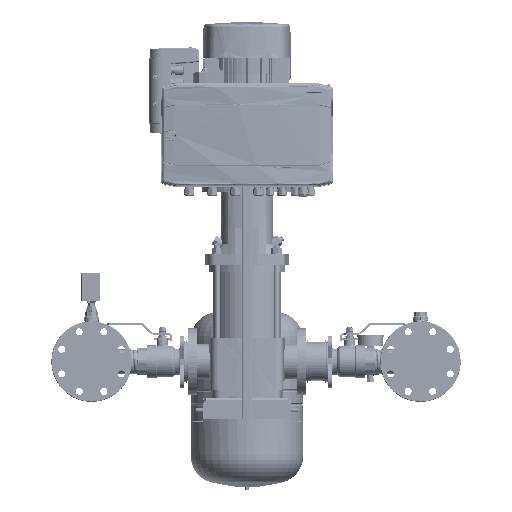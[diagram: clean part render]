
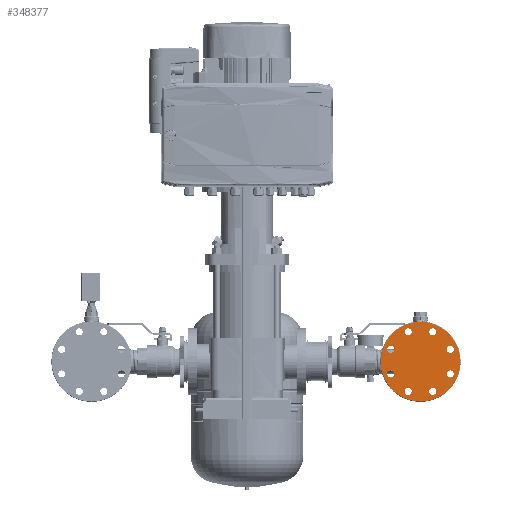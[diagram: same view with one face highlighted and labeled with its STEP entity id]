
A CAD part, left-side view. The second image highlights one B-rep face of the part: STEP entity #348377.
In plain terms, the highlighted planar face has unit normal (-1, 0, 0) as drawn and (1, 0, 0) by its records, which use the part's own axes.
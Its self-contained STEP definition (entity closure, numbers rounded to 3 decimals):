
#347771=CARTESIAN_POINT('Vertex',(20.,-38.513,69.596)) ;
#347776=CARTESIAN_POINT('Axis2P3D Location',(20.,-30.615,73.91)) ;
#347780=CARTESIAN_POINT('Vertex',(20.,-22.716,78.225)) ;
#347802=CARTESIAN_POINT('Axis2P3D Location',(20.,-30.615,73.91)) ;
#347828=CARTESIAN_POINT('Vertex',(20.,21.979,76.444)) ;
#347833=CARTESIAN_POINT('Axis2P3D Location',(20.,30.615,73.91)) ;
#347837=CARTESIAN_POINT('Vertex',(20.,39.251,71.377)) ;
#347859=CARTESIAN_POINT('Axis2P3D Location',(20.,30.615,73.91)) ;
#347885=CARTESIAN_POINT('Vertex',(20.,69.596,38.513)) ;
#347890=CARTESIAN_POINT('Axis2P3D Location',(20.,73.91,30.615)) ;
#347894=CARTESIAN_POINT('Vertex',(20.,78.225,22.716)) ;
#347916=CARTESIAN_POINT('Axis2P3D Location',(20.,73.91,30.615)) ;
#347942=CARTESIAN_POINT('Vertex',(20.,76.444,-21.979)) ;
#347947=CARTESIAN_POINT('Axis2P3D Location',(20.,73.91,-30.615)) ;
#347951=CARTESIAN_POINT('Vertex',(20.,71.377,-39.251)) ;
#347973=CARTESIAN_POINT('Axis2P3D Location',(20.,73.91,-30.615)) ;
#347999=CARTESIAN_POINT('Vertex',(20.,38.513,-69.596)) ;
#348004=CARTESIAN_POINT('Axis2P3D Location',(20.,30.615,-73.91)) ;
#348008=CARTESIAN_POINT('Vertex',(20.,22.716,-78.225)) ;
#348030=CARTESIAN_POINT('Axis2P3D Location',(20.,30.615,-73.91)) ;
#348056=CARTESIAN_POINT('Vertex',(20.,-21.979,-76.444)) ;
#348061=CARTESIAN_POINT('Axis2P3D Location',(20.,-30.615,-73.91)) ;
#348065=CARTESIAN_POINT('Vertex',(20.,-39.251,-71.377)) ;
#348087=CARTESIAN_POINT('Axis2P3D Location',(20.,-30.615,-73.91)) ;
#348113=CARTESIAN_POINT('Vertex',(20.,-69.596,-38.513)) ;
#348118=CARTESIAN_POINT('Axis2P3D Location',(20.,-73.91,-30.615)) ;
#348122=CARTESIAN_POINT('Vertex',(20.,-78.225,-22.716)) ;
#348144=CARTESIAN_POINT('Axis2P3D Location',(20.,-73.91,-30.615)) ;
#348170=CARTESIAN_POINT('Vertex',(20.,-76.444,21.979)) ;
#348175=CARTESIAN_POINT('Axis2P3D Location',(20.,-73.91,30.615)) ;
#348179=CARTESIAN_POINT('Vertex',(20.,-71.377,39.251)) ;
#348201=CARTESIAN_POINT('Axis2P3D Location',(20.,-73.91,30.615)) ;
#348322=CARTESIAN_POINT('Axis2P3D Location',(20.,0.,0.)) ;
#348327=CARTESIAN_POINT('Axis2P3D Location',(20.,0.,0.)) ;
#348331=CARTESIAN_POINT('Vertex',(20.,-99.,0.)) ;
#348333=CARTESIAN_POINT('Vertex',(20.,99.,0.)) ;
#348336=CARTESIAN_POINT('Axis2P3D Location',(20.,0.,0.)) ;
#347777=DIRECTION('Axis2P3D Direction',(1.,0.,-0.)) ;
#347803=DIRECTION('Axis2P3D Direction',(1.,0.,-0.)) ;
#347834=DIRECTION('Axis2P3D Direction',(1.,-0.,0.)) ;
#347860=DIRECTION('Axis2P3D Direction',(1.,-0.,0.)) ;
#347891=DIRECTION('Axis2P3D Direction',(1.,0.,0.)) ;
#347917=DIRECTION('Axis2P3D Direction',(1.,0.,0.)) ;
#347948=DIRECTION('Axis2P3D Direction',(1.,0.,0.)) ;
#347974=DIRECTION('Axis2P3D Direction',(1.,0.,0.)) ;
#348005=DIRECTION('Axis2P3D Direction',(1.,0.,0.)) ;
#348031=DIRECTION('Axis2P3D Direction',(1.,0.,0.)) ;
#348062=DIRECTION('Axis2P3D Direction',(1.,0.,0.)) ;
#348088=DIRECTION('Axis2P3D Direction',(1.,0.,0.)) ;
#348119=DIRECTION('Axis2P3D Direction',(1.,0.,-0.)) ;
#348145=DIRECTION('Axis2P3D Direction',(1.,0.,-0.)) ;
#348176=DIRECTION('Axis2P3D Direction',(1.,0.,-0.)) ;
#348202=DIRECTION('Axis2P3D Direction',(1.,0.,-0.)) ;
#348323=DIRECTION('Axis2P3D Direction',(1.,0.,0.)) ;
#348324=DIRECTION('Axis2P3D XDirection',(0.,1.,0.)) ;
#348328=DIRECTION('Axis2P3D Direction',(1.,0.,0.)) ;
#348337=DIRECTION('Axis2P3D Direction',(1.,0.,0.)) ;
#347778=AXIS2_PLACEMENT_3D('Circle Axis2P3D',#347776,#347777,$) ;
#347804=AXIS2_PLACEMENT_3D('Circle Axis2P3D',#347802,#347803,$) ;
#347835=AXIS2_PLACEMENT_3D('Circle Axis2P3D',#347833,#347834,$) ;
#347861=AXIS2_PLACEMENT_3D('Circle Axis2P3D',#347859,#347860,$) ;
#347892=AXIS2_PLACEMENT_3D('Circle Axis2P3D',#347890,#347891,$) ;
#347918=AXIS2_PLACEMENT_3D('Circle Axis2P3D',#347916,#347917,$) ;
#347949=AXIS2_PLACEMENT_3D('Circle Axis2P3D',#347947,#347948,$) ;
#347975=AXIS2_PLACEMENT_3D('Circle Axis2P3D',#347973,#347974,$) ;
#348006=AXIS2_PLACEMENT_3D('Circle Axis2P3D',#348004,#348005,$) ;
#348032=AXIS2_PLACEMENT_3D('Circle Axis2P3D',#348030,#348031,$) ;
#348063=AXIS2_PLACEMENT_3D('Circle Axis2P3D',#348061,#348062,$) ;
#348089=AXIS2_PLACEMENT_3D('Circle Axis2P3D',#348087,#348088,$) ;
#348120=AXIS2_PLACEMENT_3D('Circle Axis2P3D',#348118,#348119,$) ;
#348146=AXIS2_PLACEMENT_3D('Circle Axis2P3D',#348144,#348145,$) ;
#348177=AXIS2_PLACEMENT_3D('Circle Axis2P3D',#348175,#348176,$) ;
#348203=AXIS2_PLACEMENT_3D('Circle Axis2P3D',#348201,#348202,$) ;
#348325=AXIS2_PLACEMENT_3D('Plane Axis2P3D',#348322,#348323,#348324) ;
#348329=AXIS2_PLACEMENT_3D('Circle Axis2P3D',#348327,#348328,$) ;
#348338=AXIS2_PLACEMENT_3D('Circle Axis2P3D',#348336,#348337,$) ;
#347779=CIRCLE('generated circle',#347778,9.) ;
#347805=CIRCLE('generated circle',#347804,9.) ;
#347836=CIRCLE('generated circle',#347835,9.) ;
#347862=CIRCLE('generated circle',#347861,9.) ;
#347893=CIRCLE('generated circle',#347892,9.) ;
#347919=CIRCLE('generated circle',#347918,9.) ;
#347950=CIRCLE('generated circle',#347949,9.) ;
#347976=CIRCLE('generated circle',#347975,9.) ;
#348007=CIRCLE('generated circle',#348006,9.) ;
#348033=CIRCLE('generated circle',#348032,9.) ;
#348064=CIRCLE('generated circle',#348063,9.) ;
#348090=CIRCLE('generated circle',#348089,9.) ;
#348121=CIRCLE('generated circle',#348120,9.) ;
#348147=CIRCLE('generated circle',#348146,9.) ;
#348178=CIRCLE('generated circle',#348177,9.) ;
#348204=CIRCLE('generated circle',#348203,9.) ;
#348330=CIRCLE('generated circle',#348329,99.) ;
#348339=CIRCLE('generated circle',#348338,99.) ;
#348326=PLANE('',#348325) ;
#348348=FACE_BOUND('',#348345,.T.) ;
#348352=FACE_BOUND('',#348349,.T.) ;
#348356=FACE_BOUND('',#348353,.T.) ;
#348360=FACE_BOUND('',#348357,.T.) ;
#348364=FACE_BOUND('',#348361,.T.) ;
#348368=FACE_BOUND('',#348365,.T.) ;
#348372=FACE_BOUND('',#348369,.T.) ;
#348376=FACE_BOUND('',#348373,.T.) ;
#347782=EDGE_CURVE('',#347772,#347781,#347779,.T.) ;
#347806=EDGE_CURVE('',#347781,#347772,#347805,.T.) ;
#347839=EDGE_CURVE('',#347829,#347838,#347836,.T.) ;
#347863=EDGE_CURVE('',#347838,#347829,#347862,.T.) ;
#347896=EDGE_CURVE('',#347886,#347895,#347893,.T.) ;
#347920=EDGE_CURVE('',#347895,#347886,#347919,.T.) ;
#347953=EDGE_CURVE('',#347943,#347952,#347950,.T.) ;
#347977=EDGE_CURVE('',#347952,#347943,#347976,.T.) ;
#348010=EDGE_CURVE('',#348000,#348009,#348007,.T.) ;
#348034=EDGE_CURVE('',#348009,#348000,#348033,.T.) ;
#348067=EDGE_CURVE('',#348057,#348066,#348064,.T.) ;
#348091=EDGE_CURVE('',#348066,#348057,#348090,.T.) ;
#348124=EDGE_CURVE('',#348114,#348123,#348121,.T.) ;
#348148=EDGE_CURVE('',#348123,#348114,#348147,.T.) ;
#348181=EDGE_CURVE('',#348171,#348180,#348178,.T.) ;
#348205=EDGE_CURVE('',#348180,#348171,#348204,.T.) ;
#348335=EDGE_CURVE('',#348332,#348334,#348330,.T.) ;
#348340=EDGE_CURVE('',#348334,#348332,#348339,.T.) ;
#348342=ORIENTED_EDGE('',*,*,#348335,.T.) ;
#348343=ORIENTED_EDGE('',*,*,#348340,.T.) ;
#348346=ORIENTED_EDGE('',*,*,#347839,.F.) ;
#348347=ORIENTED_EDGE('',*,*,#347863,.F.) ;
#348350=ORIENTED_EDGE('',*,*,#347806,.F.) ;
#348351=ORIENTED_EDGE('',*,*,#347782,.F.) ;
#348354=ORIENTED_EDGE('',*,*,#347896,.F.) ;
#348355=ORIENTED_EDGE('',*,*,#347920,.F.) ;
#348358=ORIENTED_EDGE('',*,*,#347953,.F.) ;
#348359=ORIENTED_EDGE('',*,*,#347977,.F.) ;
#348362=ORIENTED_EDGE('',*,*,#348010,.F.) ;
#348363=ORIENTED_EDGE('',*,*,#348034,.F.) ;
#348366=ORIENTED_EDGE('',*,*,#348067,.F.) ;
#348367=ORIENTED_EDGE('',*,*,#348091,.F.) ;
#348370=ORIENTED_EDGE('',*,*,#348124,.F.) ;
#348371=ORIENTED_EDGE('',*,*,#348148,.F.) ;
#348374=ORIENTED_EDGE('',*,*,#348181,.F.) ;
#348375=ORIENTED_EDGE('',*,*,#348205,.F.) ;
#348341=EDGE_LOOP('',(#348342,#348343)) ;
#348345=EDGE_LOOP('',(#348346,#348347)) ;
#348349=EDGE_LOOP('',(#348350,#348351)) ;
#348353=EDGE_LOOP('',(#348354,#348355)) ;
#348357=EDGE_LOOP('',(#348358,#348359)) ;
#348361=EDGE_LOOP('',(#348362,#348363)) ;
#348365=EDGE_LOOP('',(#348366,#348367)) ;
#348369=EDGE_LOOP('',(#348370,#348371)) ;
#348373=EDGE_LOOP('',(#348374,#348375)) ;
#347772=VERTEX_POINT('',#347771) ;
#347781=VERTEX_POINT('',#347780) ;
#347829=VERTEX_POINT('',#347828) ;
#347838=VERTEX_POINT('',#347837) ;
#347886=VERTEX_POINT('',#347885) ;
#347895=VERTEX_POINT('',#347894) ;
#347943=VERTEX_POINT('',#347942) ;
#347952=VERTEX_POINT('',#347951) ;
#348000=VERTEX_POINT('',#347999) ;
#348009=VERTEX_POINT('',#348008) ;
#348057=VERTEX_POINT('',#348056) ;
#348066=VERTEX_POINT('',#348065) ;
#348114=VERTEX_POINT('',#348113) ;
#348123=VERTEX_POINT('',#348122) ;
#348171=VERTEX_POINT('',#348170) ;
#348180=VERTEX_POINT('',#348179) ;
#348332=VERTEX_POINT('',#348331) ;
#348334=VERTEX_POINT('',#348333) ;
#348377=ADVANCED_FACE('PartBody',(#348344,#348348,#348352,#348356,#348360,#348364,#348368,#348372,#348376),#348326,.T.) ;
#348344=FACE_OUTER_BOUND('',#348341,.T.) ;
